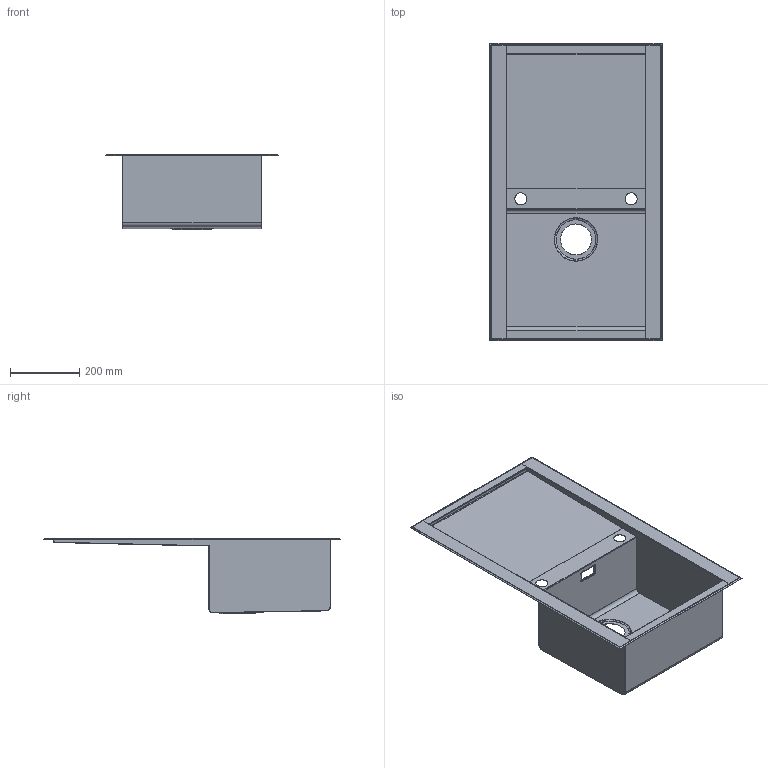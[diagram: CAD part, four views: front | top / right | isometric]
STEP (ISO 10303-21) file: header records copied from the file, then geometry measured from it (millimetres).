
FILE_DESCRIPTION(('CATIA V5 STEP Exchange'),'2;1');
FILE_NAME('\\sr02\Apell\Disegni\DISEGNI\LAVELLI\Quadra\LQR861-2\LQR861-2.stp','2018-01-29T08:02:26+00:00',('none'),('none'),'CATIA Version 5-6 Release 2014','CATIA V5 STEP AP203','none');
FILE_SCHEMA(('CONFIG_CONTROL_DESIGN'));
Length unit declared in the file: millimetre
Products named in the file (1): LQR861-2
Bounding box: 501 x 861 x 218.1 mm (x, y, z)
Volume: 746719.6 mm3; surface area: 1501937.9 mm2
Topology: 3 solids, 3 shells, 266 faces, 608 edges, 352 vertices
Faces by surface type: plane 154, cylinder 64, torus 24, cone 12, bspline 12
Entity records: 7899 total; most frequent: CARTESIAN_POINT 2283, ORIENTED_EDGE 1216, DIRECTION 973, EDGE_CURVE 608, AXIS2_PLACEMENT_3D 390, VERTEX_POINT 352, VECTOR 345, LINE 345
